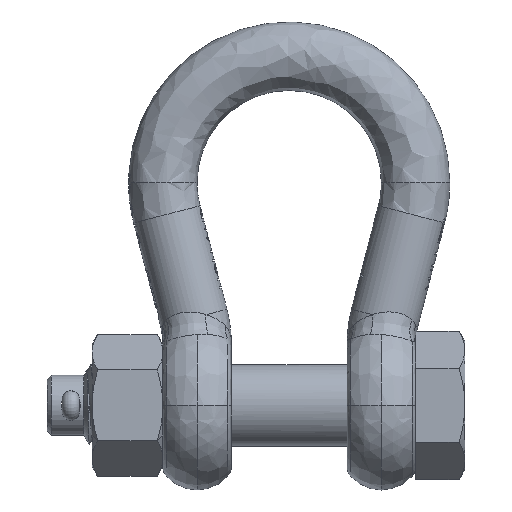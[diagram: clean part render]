
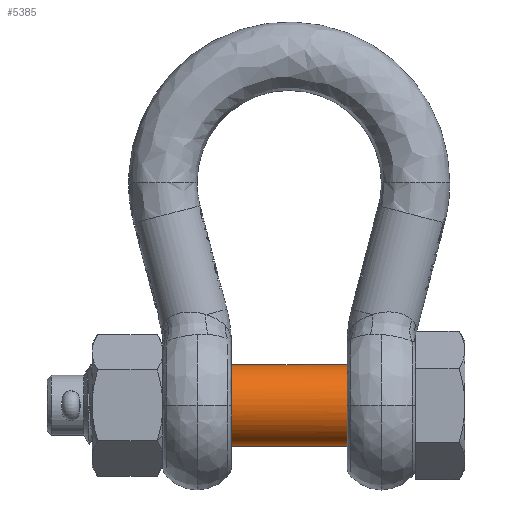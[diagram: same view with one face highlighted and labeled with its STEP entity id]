
A CAD part, top view. The second image highlights one B-rep face of the part: STEP entity #5385.
In plain terms, the highlighted cylindrical face has radius 9.5 mm (diameter 19 mm), a partial arc.
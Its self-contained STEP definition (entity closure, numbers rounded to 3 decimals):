
#3067 = DIRECTION ( 'NONE',  ( 0., 0., 1. ) ) ;
#3068 = VECTOR ( 'NONE', #3067, 1000. ) ;
#3069 = CARTESIAN_POINT ( 'NONE',  ( 9.5, 0., 11.75 ) ) ;
#3076 = LINE ( 'NONE', #3069, #3068 ) ;
#3077 = CARTESIAN_POINT ( 'NONE',  ( 9.5, 0., 66.825 ) ) ;
#3138 = CIRCLE ( 'NONE', #3178, 9.5 ) ;
#3155 = CARTESIAN_POINT ( 'NONE',  ( -5.801, -7.549, 65.916 ) ) ;
#3156 = CARTESIAN_POINT ( 'NONE',  ( -6.279, -7.156, 65.889 ) ) ;
#3157 = CARTESIAN_POINT ( 'NONE',  ( -7.156, -6.279, 65.836 ) ) ;
#3158 = CARTESIAN_POINT ( 'NONE',  ( -7.557, -5.791, 65.809 ) ) ;
#3159 = CARTESIAN_POINT ( 'NONE',  ( -8.246, -4.758, 65.756 ) ) ;
#3160 = CARTESIAN_POINT ( 'NONE',  ( -8.538, -4.212, 65.729 ) ) ;
#3161 = CARTESIAN_POINT ( 'NONE',  ( -8.895, -3.35, 65.689 ) ) ;
#3162 = CARTESIAN_POINT ( 'NONE',  ( -9.002, -3.053, 65.675 ) ) ;
#3163 = CARTESIAN_POINT ( 'NONE',  ( -9.182, -2.456, 65.649 ) ) ;
#3164 = CARTESIAN_POINT ( 'NONE',  ( -9.257, -2.155, 65.635 ) ) ;
#3165 = CARTESIAN_POINT ( 'NONE',  ( -9.438, -1.245, 65.595 ) ) ;
#3166 = CARTESIAN_POINT ( 'NONE',  ( -9.5, -0.628, 65.569 ) ) ;
#3167 = CARTESIAN_POINT ( 'NONE',  ( -9.5, 0., 65.542 ) ) ;
#3168 = B_SPLINE_CURVE_WITH_KNOTS ( 'NONE', 3,
 ( #3167, #3166, #3165, #3164, #3163, #3162, #3161, #3160, #3159, #3158, #3157, #3156, #3155, #3227, #3226, #3225, #3224, #3223, #3222, #3221, #3220, #3219, #3218, #3217, #3216, #3215, #3214, #3213, #3212, #3211, #3210, #3209, #3208, #3207, #3206, #3205, #3204, #3203, #3202, #3201, #3200, #3199, #3198, #3197, #3196, #3195 ),
 .UNSPECIFIED., .F., .F.,
 ( 4, 2, 2, 2, 2, 2, 2, 2, 2, 2, 2, 2, 2, 2, 2, 2, 2, 2, 2, 2, 2, 2, 4 ),
 ( 0., 0.002, 0.003, 0.004, 0.006, 0.007, 0.009, 0.01, 0.011, 0.012, 0.013, 0.015, 0.016, 0.017, 0.019, 0.02, 0.02, 0.022, 0.024, 0.025, 0.026, 0.028, 0.03 ),
 .UNSPECIFIED. ) ;
#3175 = DIRECTION ( 'NONE',  ( -1., 0., 0. ) ) ;
#3176 = DIRECTION ( 'NONE',  ( 0., 0., 1. ) ) ;
#3177 = CARTESIAN_POINT ( 'NONE',  ( 0., 0., 11.75 ) ) ;
#3178 = AXIS2_PLACEMENT_3D ( 'NONE', #3177, #3176, #3175 ) ;
#3195 = CARTESIAN_POINT ( 'NONE',  ( 9.5, 0., 66.825 ) ) ;
#3196 = CARTESIAN_POINT ( 'NONE',  ( 9.5, -0.628, 66.798 ) ) ;
#3197 = CARTESIAN_POINT ( 'NONE',  ( 9.437, -1.255, 66.771 ) ) ;
#3198 = CARTESIAN_POINT ( 'NONE',  ( 9.194, -2.472, 66.717 ) ) ;
#3199 = CARTESIAN_POINT ( 'NONE',  ( 9.014, -3.064, 66.691 ) ) ;
#3200 = CARTESIAN_POINT ( 'NONE',  ( 8.656, -3.928, 66.651 ) ) ;
#3201 = CARTESIAN_POINT ( 'NONE',  ( 8.521, -4.212, 66.637 ) ) ;
#3202 = CARTESIAN_POINT ( 'NONE',  ( 8.227, -4.761, 66.61 ) ) ;
#3203 = CARTESIAN_POINT ( 'NONE',  ( 8.067, -5.027, 66.597 ) ) ;
#3204 = CARTESIAN_POINT ( 'NONE',  ( 7.551, -5.799, 66.557 ) ) ;
#3205 = CARTESIAN_POINT ( 'NONE',  ( 7.156, -6.28, 66.531 ) ) ;
#3206 = CARTESIAN_POINT ( 'NONE',  ( 6.269, -7.165, 66.477 ) ) ;
#3207 = CARTESIAN_POINT ( 'NONE',  ( 5.789, -7.558, 66.45 ) ) ;
#3208 = CARTESIAN_POINT ( 'NONE',  ( 5.017, -8.073, 66.41 ) ) ;
#3209 = CARTESIAN_POINT ( 'NONE',  ( 4.751, -8.233, 66.397 ) ) ;
#3210 = CARTESIAN_POINT ( 'NONE',  ( 4.2, -8.527, 66.37 ) ) ;
#3211 = CARTESIAN_POINT ( 'NONE',  ( 3.915, -8.661, 66.357 ) ) ;
#3212 = CARTESIAN_POINT ( 'NONE',  ( 3.053, -9.018, 66.317 ) ) ;
#3213 = CARTESIAN_POINT ( 'NONE',  ( 2.461, -9.197, 66.29 ) ) ;
#3214 = CARTESIAN_POINT ( 'NONE',  ( 1.547, -9.378, 66.25 ) ) ;
#3215 = CARTESIAN_POINT ( 'NONE',  ( 1.237, -9.424, 66.237 ) ) ;
#3216 = CARTESIAN_POINT ( 'NONE',  ( 0.614, -9.485, 66.21 ) ) ;
#3217 = CARTESIAN_POINT ( 'NONE',  ( 0.303, -9.5, 66.196 ) ) ;
#3218 = CARTESIAN_POINT ( 'NONE',  ( -0.626, -9.5, 66.156 ) ) ;
#3219 = CARTESIAN_POINT ( 'NONE',  ( -1.242, -9.439, 66.13 ) ) ;
#3220 = CARTESIAN_POINT ( 'NONE',  ( -2.162, -9.256, 66.09 ) ) ;
#3221 = CARTESIAN_POINT ( 'NONE',  ( -2.467, -9.179, 66.076 ) ) ;
#3222 = CARTESIAN_POINT ( 'NONE',  ( -3.061, -8.999, 66.049 ) ) ;
#3223 = CARTESIAN_POINT ( 'NONE',  ( -3.352, -8.894, 66.036 ) ) ;
#3224 = CARTESIAN_POINT ( 'NONE',  ( -3.924, -8.657, 66.01 ) ) ;
#3225 = CARTESIAN_POINT ( 'NONE',  ( -4.204, -8.525, 65.996 ) ) ;
#3226 = CARTESIAN_POINT ( 'NONE',  ( -4.752, -8.232, 65.97 ) ) ;
#3227 = CARTESIAN_POINT ( 'NONE',  ( -5.022, -8.07, 65.956 ) ) ;
#5035 = VERTEX_POINT ( 'NONE', #10782 ) ;
#5038 = EDGE_CURVE ( 'NONE', #5040, #5035, #10814, .T. ) ;
#5040 = VERTEX_POINT ( 'NONE', #10803 ) ;
#5058 = VERTEX_POINT ( 'NONE', #10821 ) ;
#5065 = EDGE_CURVE ( 'NONE', #5040, #5067, #10797, .T. ) ;
#5067 = VERTEX_POINT ( 'NONE', #10757 ) ;
#5379 = VERTEX_POINT ( 'NONE', #3077 ) ;
#5383 = EDGE_CURVE ( 'NONE', #5058, #5379, #3076, .T. ) ;
#5385 = ADVANCED_FACE ( 'NONE', ( #9862 ), #9861, .T. ) ;
#5387 = EDGE_LOOP ( 'NONE', ( #5389, #5392, #5403, #5407, #5409 ) ) ;
#5389 = ORIENTED_EDGE ( 'NONE', *, *, #5065, .F. ) ;
#5392 = ORIENTED_EDGE ( 'NONE', *, *, #5038, .T. ) ;
#5403 = ORIENTED_EDGE ( 'NONE', *, *, #5404, .T. ) ;
#5404 = EDGE_CURVE ( 'NONE', #5035, #5058, #3138, .T. ) ;
#5407 = ORIENTED_EDGE ( 'NONE', *, *, #5383, .T. ) ;
#5409 = ORIENTED_EDGE ( 'NONE', *, *, #5411, .F. ) ;
#5411 = EDGE_CURVE ( 'NONE', #5067, #5379, #3168, .T. ) ;
#9755 = DIRECTION ( 'NONE',  ( 1., 0., 0. ) ) ;
#9861 = CYLINDRICAL_SURFACE ( 'NONE', #9865, 9.5 ) ;
#9862 = FACE_OUTER_BOUND ( 'NONE', #5387, .T. ) ;
#9863 = DIRECTION ( 'NONE',  ( 0., 0., 1. ) ) ;
#9864 = CARTESIAN_POINT ( 'NONE',  ( 0., 0., 11.75 ) ) ;
#9865 = AXIS2_PLACEMENT_3D ( 'NONE', #9864, #9863, #9755 ) ;
#10757 = CARTESIAN_POINT ( 'NONE',  ( -9.5, 0., 65.542 ) ) ;
#10759 = DIRECTION ( 'NONE',  ( 0., 0., 1. ) ) ;
#10760 = VECTOR ( 'NONE', #10759, 1000. ) ;
#10782 = CARTESIAN_POINT ( 'NONE',  ( 0., -9.5, 11.75 ) ) ;
#10790 = DIRECTION ( 'NONE',  ( -1., 0., 0. ) ) ;
#10796 = CARTESIAN_POINT ( 'NONE',  ( -9.5, 0., 11.75 ) ) ;
#10797 = LINE ( 'NONE', #10796, #10760 ) ;
#10803 = CARTESIAN_POINT ( 'NONE',  ( -9.5, 0., 11.75 ) ) ;
#10811 = DIRECTION ( 'NONE',  ( 0., 0., 1. ) ) ;
#10812 = CARTESIAN_POINT ( 'NONE',  ( 0., 0., 11.75 ) ) ;
#10813 = AXIS2_PLACEMENT_3D ( 'NONE', #10812, #10811, #10790 ) ;
#10814 = CIRCLE ( 'NONE', #10813, 9.5 ) ;
#10821 = CARTESIAN_POINT ( 'NONE',  ( 9.5, 0., 11.75 ) ) ;
